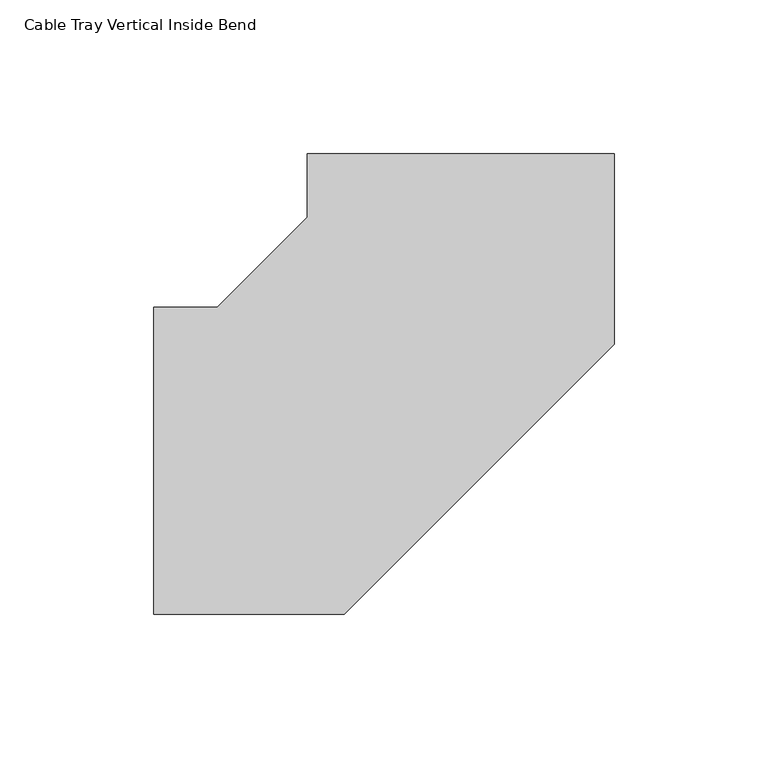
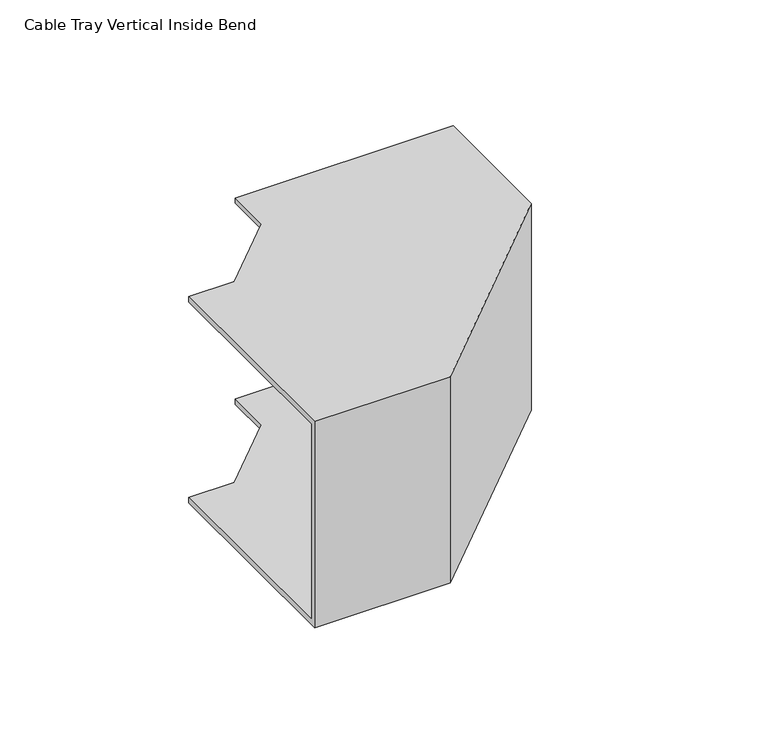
"""IFC4 building model written with IfcOpenShell, lengths in millimetres: cable carrier fitting geometry, Cable Tray Vertical Inside Bend : ELEC_ELV_TKG_N2402."""

from ifc_helpers import new_model, si_unit, origin, place, context, project, spatial, faceted_brep, source, transform, mapped, element, save


def cable_tray_vertical_inside_bend_47f2189d(model_context):
    return source(origin(), model_context, "Body", "Brep", [
        faceted_brep([(-99.9951443, 50.0, 50.0), (-99.9951443, 50.0, 47.46), (-99.9951443, -47.46, 47.46), (-99.9951443, -47.46, -47.46), (-99.9951443, 50.0, -47.46), (-99.9951443, 50.0, -50.0), (-99.9951443, -50.0, -50.0), (-99.9951443, -50.0, 50.0), (-49.9951444, 99.9975721, 50.0), (50.0048555, 99.9927163, 50.0), (50.0048555, 99.9927163, -50.0), (-49.9951444, 99.9975721, -50.0), (-49.9951444, 99.9975721, -47.46), (47.4648555, 99.9928397, -47.46), (47.4648555, 99.9928397, 47.46), (-49.9951444, 99.9975721, 47.46), (-79.2851773, 50.0, 50.0), (-79.2851773, 50.0, 47.46), (-49.99615, 79.2876051, 47.46), (47.4618897, 38.915005, 47.46), (-38.9173096, -47.46, 47.46), (-38.9173096, -47.46, -47.46), (47.4618897, 38.915005, -47.46), (-49.99615, 79.2876051, -47.46), (-79.2851773, 50.0, -47.46), (-79.2851773, 50.0, -50.0), (-49.99615, 79.2876051, -50.0), (50.0018386, 37.8628154, -50.0), (-37.8652433, -50.0, -50.0), (-37.8652433, -50.0, 50.0), (50.0018386, 37.8628154, 50.0), (-49.99615, 79.2876051, 50.0)], [[[0, 1, 2, 3, 4, 5, 6, 7]], [[8, 9, 10, 11, 12, 13, 14, 15]], [[1, 0, 16, 17]], [[2, 1, 17, 18, 15, 14, 19, 20]], [[3, 2, 20, 21]], [[4, 3, 21, 22, 13, 12, 23, 24]], [[5, 4, 24, 25]], [[6, 5, 25, 26, 11, 10, 27, 28]], [[7, 6, 28, 29]], [[0, 7, 29, 30, 9, 8, 31, 16]], [[17, 16, 31, 18]], [[21, 20, 19, 22]], [[25, 24, 23, 26]], [[29, 28, 27, 30]], [[18, 31, 8, 15]], [[22, 19, 14, 13]], [[26, 23, 12, 11]], [[30, 27, 10, 9]]]),
    ])


if __name__ == "__main__":
    model = new_model("IFC4")
    model_context = context("Model", 3, world=origin())
    ifc_project = project(units=[si_unit("LENGTHUNIT", "METRE", prefix="MILLI")], contexts=[model_context])
    site = spatial("IfcSite", under=ifc_project)
    building = spatial("IfcBuilding", under=site)
    placement = place(None, origin())
    cable_tray_vertical_inside_bend_shape = cable_tray_vertical_inside_bend_47f2189d(model_context)
    element("IfcCableCarrierFitting", 1, ObjectType="Cable Tray Vertical Inside Bend : ELEC_ELV_TKG_N2402", at=placement, inside=building, context=model_context, shape_type="MappedRepresentation", body=[
        mapped(cable_tray_vertical_inside_bend_shape, transform((0.0, 0.0, 0.0), x_axis=(1.0, 0.0, 0.0), y_axis=(0.0, 1.0, 0.0), z_axis=(0.0, 0.0, 1.0))),
    ])
    save(model, "model.ifc")
